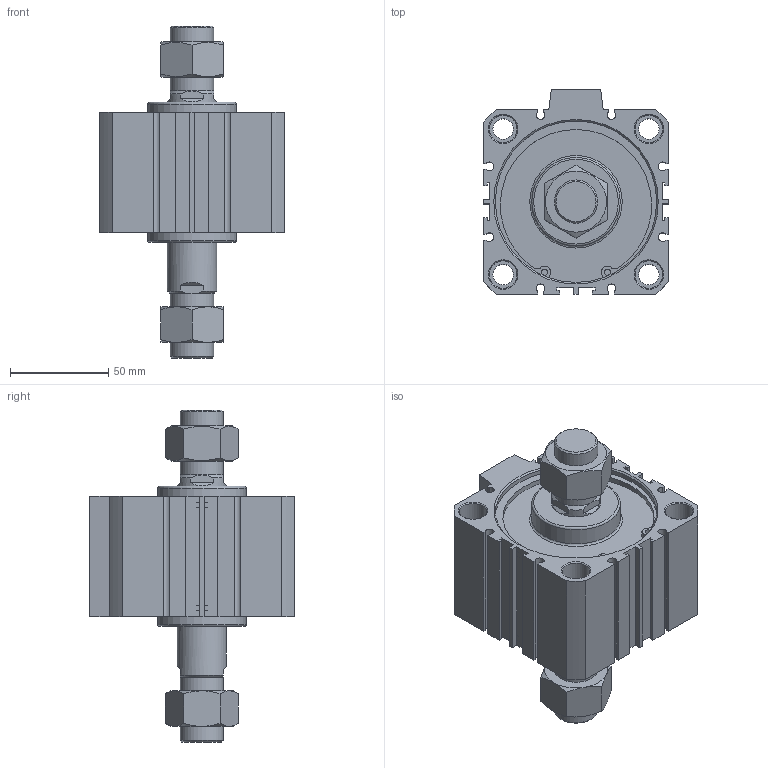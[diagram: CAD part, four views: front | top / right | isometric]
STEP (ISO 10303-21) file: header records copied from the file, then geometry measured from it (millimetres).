
FILE_DESCRIPTION((''),'2;1');
FILE_NAME('I:\3D電子目錄\氣缸\JDD\JDD-B\JDD80-B\JDD80x20-B.stp','2007-02-13T16:47:49',('662F206'),(''),'Autodesk Inventor 10','Autodesk Inventor 10','');
FILE_SCHEMA(('AUTOMOTIVE_DESIGN { 1 0 10303 214 1 1 1 1 }'));
Length unit declared in the file: millimetre
Products named in the file (3): JDD80-B; R 形環 82
Assembly tree (3 placements, depth 2):
  JDD80-B
    JDD80-B
    R 形環 82  x2
Bounding box: 94 x 104 x 168.7 mm (x, y, z)
Volume: 538807.7 mm3; surface area: 84050.2 mm2
Topology: 3 solids, 3 shells, 226 faces, 548 edges, 354 vertices
Faces by surface type: plane 130, cylinder 56, cone 36, bspline 2, torus 2
Full cylindrical faces by diameter (mm): 3.1 x4, 3.5 x2, 10.4 x4, 14 x8, 22 x4, 25 x2, 45 x2, 82 x4, 85.5 x2
Entity records: 6033 total; most frequent: CARTESIAN_POINT 1188, DIRECTION 994, ORIENTED_EDGE 916, EDGE_CURVE 458, AXIS2_PLACEMENT_3D 366, VERTEX_POINT 326, EDGE_LOOP 304, VECTOR 262
